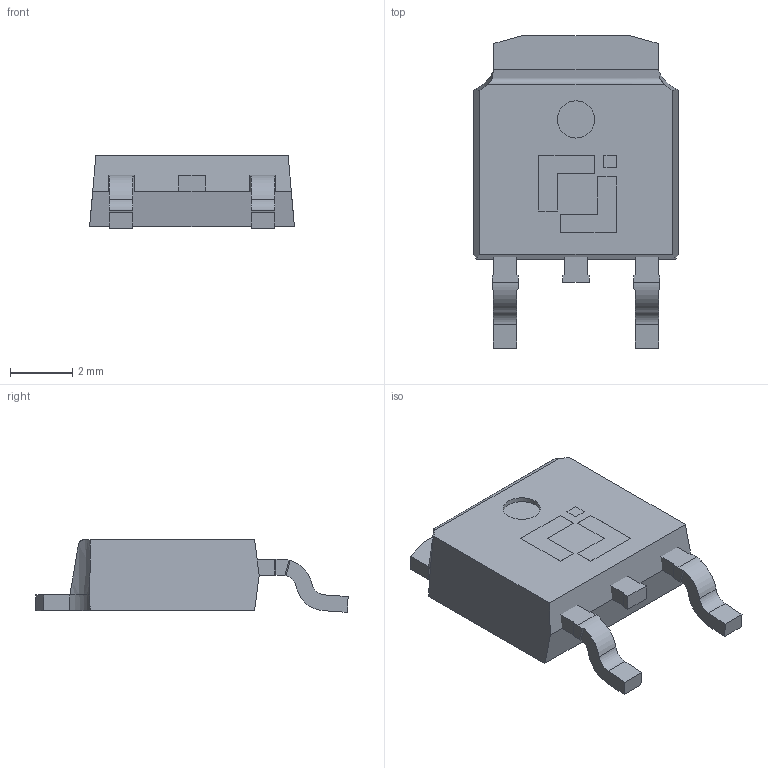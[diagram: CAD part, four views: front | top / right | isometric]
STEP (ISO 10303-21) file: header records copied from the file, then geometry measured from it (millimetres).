
FILE_DESCRIPTION(('HOOPS Exchange Step'),'2;1');
FILE_NAME('C:\Users\JSCJ\AppData\Local\Packages\Shapr3D.Shapr3D_dvv5p1vgwv6mp\TempState\export\temp_export','2025-12-04T11:08:20+08:00',('JSCJ'),('Shapr3D Limited'),'HOOPS Exchange 2025.7','Shapr3D','Authorized');
FILE_SCHEMA( ('AP242_MANAGED_MODEL_BASED_3D_ENGINEERING_MIM_LF {1 0 10303 442 1 1 4}') );
Length unit declared in the file: millimetre
Products named in the file (3): 直线图案 02; 直线图案 01; root
Assembly tree (2 placements, depth 2):
  root
    直线图案 02
    直线图案 01
Bounding box: 6.6 x 10.07 x 2.34 mm (x, y, z)
Volume: 91.8 mm3; surface area: 223.8 mm2
Topology: 5 solids, 5 shells, 136 faces, 355 edges, 234 vertices
Faces by surface type: plane 110, cylinder 24, cone 2
Full cylindrical faces by diameter (mm): 1.2 x1
Entity records: 4261 total; most frequent: CARTESIAN_POINT 743, ORIENTED_EDGE 710, DIRECTION 703, EDGE_CURVE 355, VECTOR 287, LINE 287, VERTEX_POINT 234, AXIS2_PLACEMENT_3D 208
